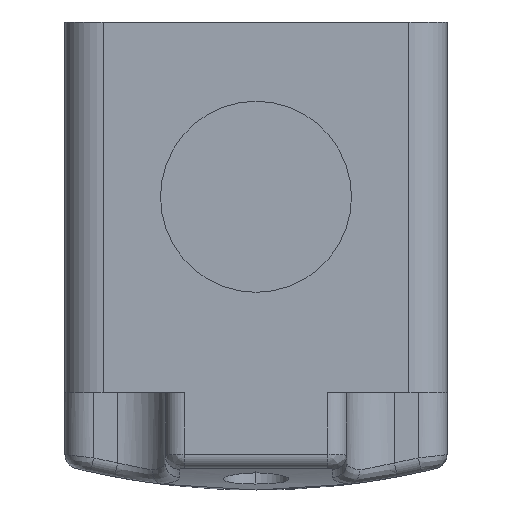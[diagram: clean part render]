
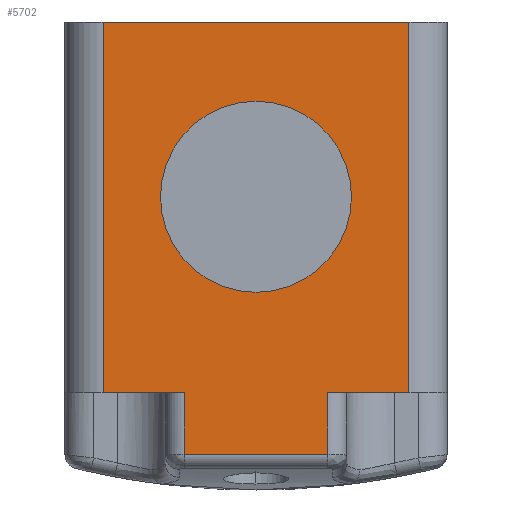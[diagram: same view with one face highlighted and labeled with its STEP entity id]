
A CAD part, left-side view. The second image highlights one B-rep face of the part: STEP entity #5702.
In plain terms, the highlighted planar face has unit normal (-1, 0, 0).
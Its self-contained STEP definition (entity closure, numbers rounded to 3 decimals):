
#46 = LINE ( 'NONE', #1227, #10190 ) ;
#195 = VERTEX_POINT ( 'NONE', #8688 ) ;
#489 = VERTEX_POINT ( 'NONE', #553 ) ;
#553 = CARTESIAN_POINT ( 'NONE',  ( -149.4, -7.5, -24.965 ) ) ;
#566 = EDGE_CURVE ( 'NONE', #195, #5464, #7697, .T. ) ;
#597 = ORIENTED_EDGE ( 'NONE', *, *, #1035, .F. ) ;
#770 = LINE ( 'NONE', #8121, #1066 ) ;
#790 = CARTESIAN_POINT ( 'NONE',  ( -149.4, -7.5, -28.7 ) ) ;
#919 = CARTESIAN_POINT ( 'NONE',  ( -149.4, 0., 2. ) ) ;
#977 = CARTESIAN_POINT ( 'NONE',  ( -149.4, 0., 20.3 ) ) ;
#1035 = EDGE_CURVE ( 'NONE', #5464, #195, #10629, .T. ) ;
#1066 = VECTOR ( 'NONE', #2231, 1000. ) ;
#1227 = CARTESIAN_POINT ( 'NONE',  ( -149.4, 0., -18.5 ) ) ;
#1486 = CARTESIAN_POINT ( 'NONE',  ( -149.4, -16., 20.3 ) ) ;
#1488 = ORIENTED_EDGE ( 'NONE', *, *, #5854, .F. ) ;
#1786 = LINE ( 'NONE', #4881, #4713 ) ;
#1850 = DIRECTION ( 'NONE',  ( -1., 0., 0. ) ) ;
#1909 = EDGE_LOOP ( 'NONE', ( #2493, #4337, #1488, #4736, #8067, #3981, #2300, #4780 ) ) ;
#1916 = DIRECTION ( 'NONE',  ( 0., -1., 0. ) ) ;
#1934 = PLANE ( 'NONE',  #12332 ) ;
#2231 = DIRECTION ( 'NONE',  ( 0., 0., -1. ) ) ;
#2300 = ORIENTED_EDGE ( 'NONE', *, *, #3847, .T. ) ;
#2493 = ORIENTED_EDGE ( 'NONE', *, *, #9080, .T. ) ;
#2916 = CARTESIAN_POINT ( 'NONE',  ( -149.4, 0., 20.3 ) ) ;
#3296 = LINE ( 'NONE', #6224, #10882 ) ;
#3741 = EDGE_CURVE ( 'NONE', #489, #6243, #10582, .T. ) ;
#3847 = EDGE_CURVE ( 'NONE', #7924, #6816, #1786, .T. ) ;
#3981 = ORIENTED_EDGE ( 'NONE', *, *, #10884, .T. ) ;
#4179 = FACE_BOUND ( 'NONE', #10058, .T. ) ;
#4309 = VERTEX_POINT ( 'NONE', #10739 ) ;
#4337 = ORIENTED_EDGE ( 'NONE', *, *, #3741, .T. ) ;
#4443 = CARTESIAN_POINT ( 'NONE',  ( -149.4, 16., 20.3 ) ) ;
#4713 = VECTOR ( 'NONE', #5888, 1000. ) ;
#4736 = ORIENTED_EDGE ( 'NONE', *, *, #12624, .F. ) ;
#4780 = ORIENTED_EDGE ( 'NONE', *, *, #6588, .F. ) ;
#4793 = VERTEX_POINT ( 'NONE', #4443 ) ;
#4881 = CARTESIAN_POINT ( 'NONE',  ( -149.4, 0., -18.5 ) ) ;
#4908 = DIRECTION ( 'NONE',  ( 1., 0., 0. ) ) ;
#5235 = ORIENTED_EDGE ( 'NONE', *, *, #566, .F. ) ;
#5464 = VERTEX_POINT ( 'NONE', #9465 ) ;
#5702 = ADVANCED_FACE ( 'NONE', ( #9437, #4179 ), #1934, .F. ) ;
#5709 = EDGE_CURVE ( 'NONE', #4793, #7308, #11452, .T. ) ;
#5854 = EDGE_CURVE ( 'NONE', #10817, #6243, #46, .T. ) ;
#5888 = DIRECTION ( 'NONE',  ( 0., -1., 0. ) ) ;
#5934 = CARTESIAN_POINT ( 'NONE',  ( -149.4, -16., -18.5 ) ) ;
#6210 = DIRECTION ( 'NONE',  ( 0., 0., -1. ) ) ;
#6224 = CARTESIAN_POINT ( 'NONE',  ( -149.4, 0., -24.965 ) ) ;
#6235 = DIRECTION ( 'NONE',  ( 0., 1., 0. ) ) ;
#6243 = VERTEX_POINT ( 'NONE', #7768 ) ;
#6588 = EDGE_CURVE ( 'NONE', #4309, #6816, #7309, .T. ) ;
#6771 = AXIS2_PLACEMENT_3D ( 'NONE', #7737, #1850, #8724 ) ;
#6816 = VERTEX_POINT ( 'NONE', #8860 ) ;
#7308 = VERTEX_POINT ( 'NONE', #1486 ) ;
#7309 = LINE ( 'NONE', #10483, #12576 ) ;
#7367 = DIRECTION ( 'NONE',  ( 0., 0., 1. ) ) ;
#7589 = AXIS2_PLACEMENT_3D ( 'NONE', #919, #7812, #1916 ) ;
#7639 = VECTOR ( 'NONE', #11559, 1000. ) ;
#7697 = CIRCLE ( 'NONE', #6771, 10. ) ;
#7737 = CARTESIAN_POINT ( 'NONE',  ( -149.4, 0., 2. ) ) ;
#7768 = CARTESIAN_POINT ( 'NONE',  ( -149.4, -7.5, -18.5 ) ) ;
#7812 = DIRECTION ( 'NONE',  ( -1., 0., 0. ) ) ;
#7868 = DIRECTION ( 'NONE',  ( 0., -1., 0. ) ) ;
#7924 = VERTEX_POINT ( 'NONE', #8651 ) ;
#8067 = ORIENTED_EDGE ( 'NONE', *, *, #5709, .F. ) ;
#8121 = CARTESIAN_POINT ( 'NONE',  ( -149.4, 16., 20.3 ) ) ;
#8651 = CARTESIAN_POINT ( 'NONE',  ( -149.4, 16., -18.5 ) ) ;
#8688 = CARTESIAN_POINT ( 'NONE',  ( -149.4, -10., 2. ) ) ;
#8724 = DIRECTION ( 'NONE',  ( 0., -1., 0. ) ) ;
#8860 = CARTESIAN_POINT ( 'NONE',  ( -149.4, 7.5, -18.5 ) ) ;
#9080 = EDGE_CURVE ( 'NONE', #4309, #489, #3296, .T. ) ;
#9437 = FACE_OUTER_BOUND ( 'NONE', #1909, .T. ) ;
#9465 = CARTESIAN_POINT ( 'NONE',  ( -149.4, 10., 2. ) ) ;
#10058 = EDGE_LOOP ( 'NONE', ( #5235, #597 ) ) ;
#10190 = VECTOR ( 'NONE', #6235, 1000. ) ;
#10483 = CARTESIAN_POINT ( 'NONE',  ( -149.4, 7.5, -28.7 ) ) ;
#10582 = LINE ( 'NONE', #790, #7639 ) ;
#10629 = CIRCLE ( 'NONE', #7589, 10. ) ;
#10739 = CARTESIAN_POINT ( 'NONE',  ( -149.4, 7.5, -24.965 ) ) ;
#10817 = VERTEX_POINT ( 'NONE', #5934 ) ;
#10882 = VECTOR ( 'NONE', #12160, 1000. ) ;
#10884 = EDGE_CURVE ( 'NONE', #4793, #7924, #770, .T. ) ;
#11452 = LINE ( 'NONE', #977, #11766 ) ;
#11540 = VECTOR ( 'NONE', #6210, 1000. ) ;
#11559 = DIRECTION ( 'NONE',  ( 0., 0., 1. ) ) ;
#11766 = VECTOR ( 'NONE', #7868, 1000. ) ;
#11807 = DIRECTION ( 'NONE',  ( 0., 1., 0. ) ) ;
#11851 = LINE ( 'NONE', #12112, #11540 ) ;
#12112 = CARTESIAN_POINT ( 'NONE',  ( -149.4, -16., 20.3 ) ) ;
#12160 = DIRECTION ( 'NONE',  ( 0., -1., 0. ) ) ;
#12332 = AXIS2_PLACEMENT_3D ( 'NONE', #2916, #4908, #11807 ) ;
#12576 = VECTOR ( 'NONE', #7367, 1000. ) ;
#12624 = EDGE_CURVE ( 'NONE', #7308, #10817, #11851, .T. ) ;
